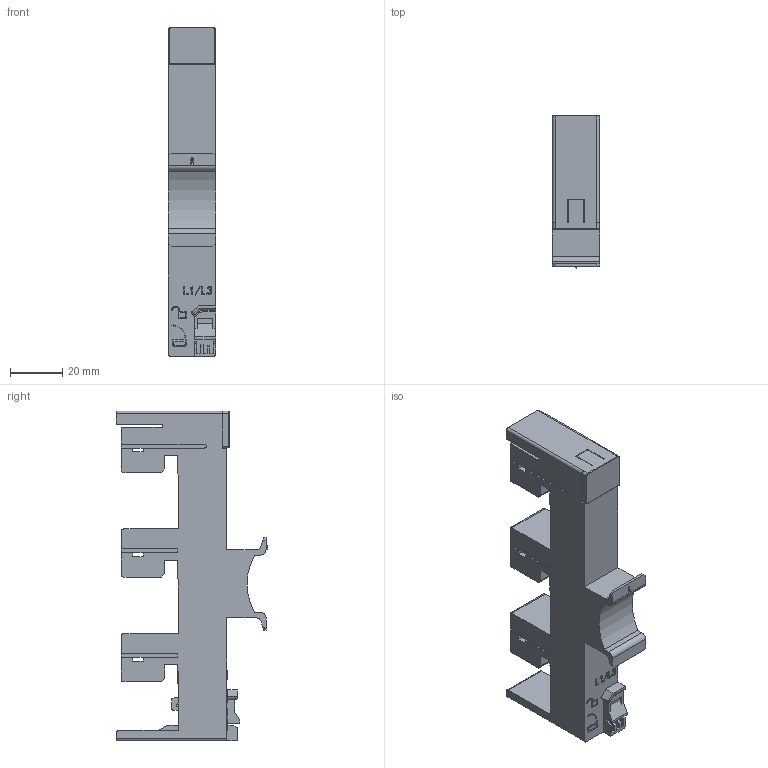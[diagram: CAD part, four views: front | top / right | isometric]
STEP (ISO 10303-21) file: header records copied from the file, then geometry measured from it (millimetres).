
FILE_DESCRIPTION (( 'STEP AP214' ), '1' );
FILE_NAME ('53630.STEP', '2022-08-03T08:15:29', ( 'Windows User' ), ( 'P R C' ), 'SwSTEP 2.0', 'SolidWorks 2019', '' );
FILE_SCHEMA (( 'AUTOMOTIVE_DESIGN' ));
Length unit declared in the file: millimetre
Products named in the file (1): 53630
Bounding box: 18 x 58 x 126 mm (x, y, z)
Volume: 68833.9 mm3; surface area: 21961.8 mm2
Topology: 1 solids, 5 shells, 446 faces, 1245 edges, 812 vertices
Faces by surface type: plane 354, cylinder 60, bspline 32
Entity records: 19539 total; most frequent: CARTESIAN_POINT 6268, ORIENTED_EDGE 2490, DIRECTION 2095, EDGE_CURVE 1245, VECTOR 1053, LINE 1053, VERTEX_POINT 812, AXIS2_PLACEMENT_3D 521
